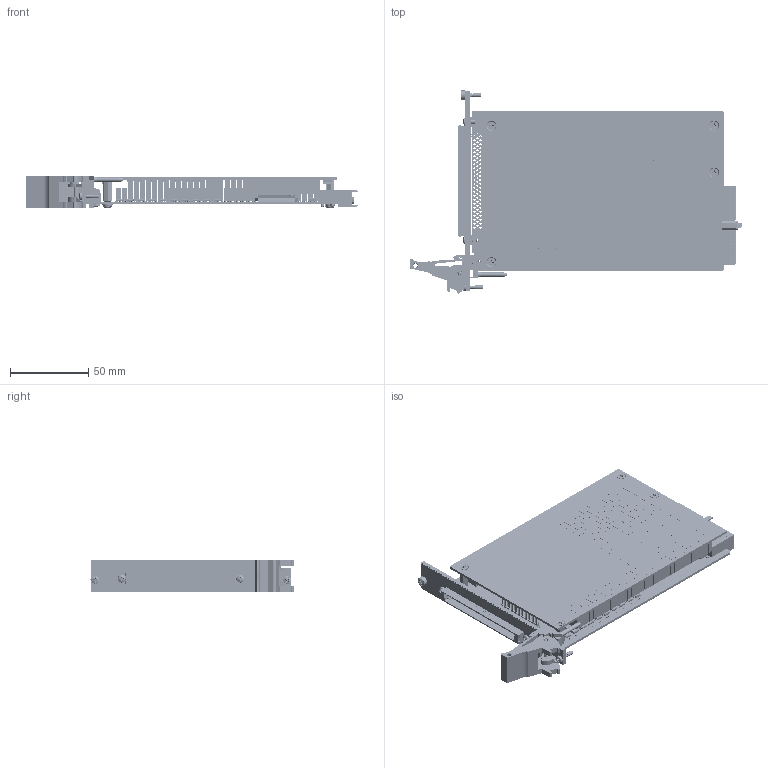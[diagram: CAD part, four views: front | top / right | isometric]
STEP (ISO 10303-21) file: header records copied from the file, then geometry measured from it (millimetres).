
FILE_DESCRIPTION (( 'STEP AP214' ), '1' );
FILE_NAME ('40-531-021-S 1 Pole 32x8 Screened Relay Ultra High Density Matrix.STEP', '2013-08-28T11:44:36', ( 'admin' ), ( '' ), 'SwSTEP 2.0', 'SolidWorks 2012', '' );
FILE_SCHEMA (( 'AUTOMOTIVE_DESIGN' ));
Length unit declared in the file: millimetre
Products named in the file (1): 40-531-021-S 1 Pole 32x8 Screened Relay  Ultra High Density Matrix
Bounding box: 211.99 x 129.67 x 20 mm (x, y, z)
Surface area: 120524.4 mm2 (no closed solid volume)
Topology: 0 solids, 4877 shells, 16120 faces, 71598 edges, 59590 vertices
Faces by surface type: plane 10788, bspline 2826, cylinder 2423, cone 54, torus 22, sphere 7
Full cylindrical faces by diameter (mm): 0.381 x6, 0.5 x1074, 0.6 x293, 1.15 x227, 1.245 x5, 1.397 x96, 1.496 x2, 2 x5, 2.387 x1, 2.497 x1, 2.5 x3, 2.6 x3, 2.8 x1, 2.9 x1, 3 x4, 3.08 x1, 3.3 x1, 3.665 x1, 4.76 x1, 5 x7, 5.3 x1, 5.5 x4, 6 x1, 6.8 x4
Entity records: 1143702 total; most frequent: CARTESIAN_POINT 436713, DIRECTION 89636, ORIENTED_EDGE 88176, EDGE_CURVE 69604, VERTEX_POINT 59410, VECTOR 46388, LINE 46388, EDGE_LOOP 24082
